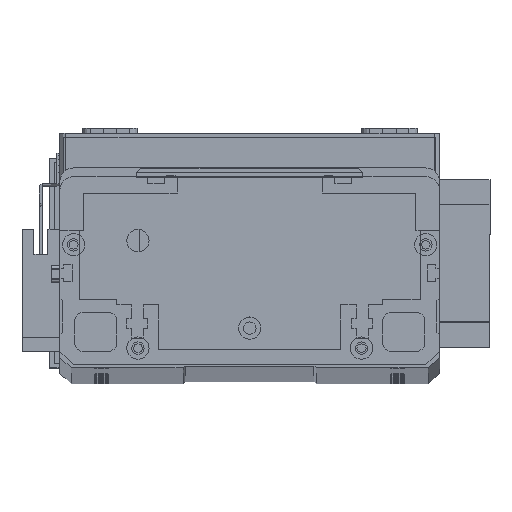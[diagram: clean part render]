
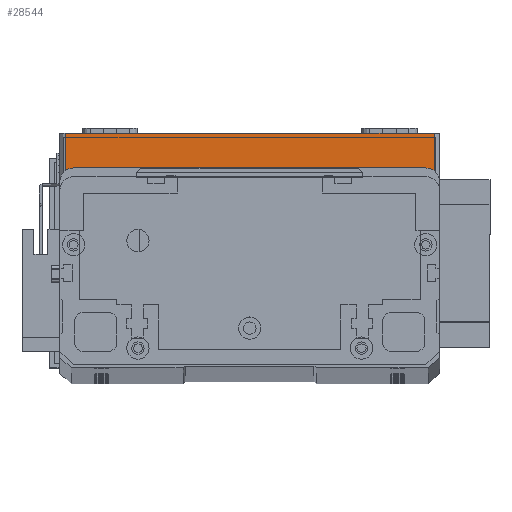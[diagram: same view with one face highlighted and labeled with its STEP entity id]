
A CAD part, top view. The second image highlights one B-rep face of the part: STEP entity #28544.
In plain terms, the highlighted planar face has unit normal (0, 0, 1) as drawn and (0, -1, 0) by its records, which use the part's own axes.
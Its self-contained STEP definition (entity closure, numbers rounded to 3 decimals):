
#1915 = ORIENTED_EDGE ( 'NONE', *, *, #9501, .F. ) ;
#2254 = EDGE_CURVE ( 'NONE', #11107, #7211, #23360, .T. ) ;
#2548 = VECTOR ( 'NONE', #13405, 1000. ) ;
#3422 = DIRECTION ( 'NONE',  ( 0., 0., 1. ) ) ;
#4121 = CARTESIAN_POINT ( 'NONE',  ( 134., 0., 0. ) ) ;
#4332 = FACE_OUTER_BOUND ( 'NONE', #23071, .T. ) ;
#6426 = CARTESIAN_POINT ( 'NONE',  ( 134., 0., 19.5 ) ) ;
#6905 = DIRECTION ( 'NONE',  ( 0., 0., 1. ) ) ;
#7113 = LINE ( 'NONE', #30611, #14306 ) ;
#7211 = VERTEX_POINT ( 'NONE', #6426 ) ;
#7224 = DIRECTION ( 'NONE',  ( 0., 0., -1. ) ) ;
#8803 = DIRECTION ( 'NONE',  ( 1., 0., 0. ) ) ;
#9501 = EDGE_CURVE ( 'NONE', #20138, #7211, #15450, .T. ) ;
#11107 = VERTEX_POINT ( 'NONE', #4121 ) ;
#11466 = CARTESIAN_POINT ( 'NONE',  ( 2., 0., 19.5 ) ) ;
#12401 = AXIS2_PLACEMENT_3D ( 'NONE', #18844, #21400, #6905 ) ;
#13405 = DIRECTION ( 'NONE',  ( 1., 0., 0. ) ) ;
#14306 = VECTOR ( 'NONE', #8803, 1000. ) ;
#14633 = EDGE_CURVE ( 'NONE', #20558, #11107, #7113, .T. ) ;
#15450 = LINE ( 'NONE', #28031, #2548 ) ;
#16413 = PLANE ( 'NONE',  #12401 ) ;
#17873 = CARTESIAN_POINT ( 'NONE',  ( 2., 0., 0. ) ) ;
#18844 = CARTESIAN_POINT ( 'NONE',  ( 0., 0., 19.5 ) ) ;
#19269 = CARTESIAN_POINT ( 'NONE',  ( 2., 0., 19.5 ) ) ;
#20138 = VERTEX_POINT ( 'NONE', #11466 ) ;
#20393 = CARTESIAN_POINT ( 'NONE',  ( 134., 0., 19.5 ) ) ;
#20558 = VERTEX_POINT ( 'NONE', #17873 ) ;
#21400 = DIRECTION ( 'NONE',  ( 0., 1., 0. ) ) ;
#22451 = ORIENTED_EDGE ( 'NONE', *, *, #2254, .T. ) ;
#23071 = EDGE_LOOP ( 'NONE', ( #1915, #29580, #30344, #22451 ) ) ;
#23360 = LINE ( 'NONE', #20393, #29805 ) ;
#27076 = VECTOR ( 'NONE', #7224, 1000. ) ;
#28031 = CARTESIAN_POINT ( 'NONE',  ( 0., 0., 19.5 ) ) ;
#28544 = ADVANCED_FACE ( 'NONE', ( #4332 ), #16413, .F. ) ;
#28612 = EDGE_CURVE ( 'NONE', #20138, #20558, #28617, .T. ) ;
#28617 = LINE ( 'NONE', #19269, #27076 ) ;
#29580 = ORIENTED_EDGE ( 'NONE', *, *, #28612, .T. ) ;
#29805 = VECTOR ( 'NONE', #3422, 1000. ) ;
#30344 = ORIENTED_EDGE ( 'NONE', *, *, #14633, .T. ) ;
#30611 = CARTESIAN_POINT ( 'NONE',  ( 0., 0., 0. ) ) ;
